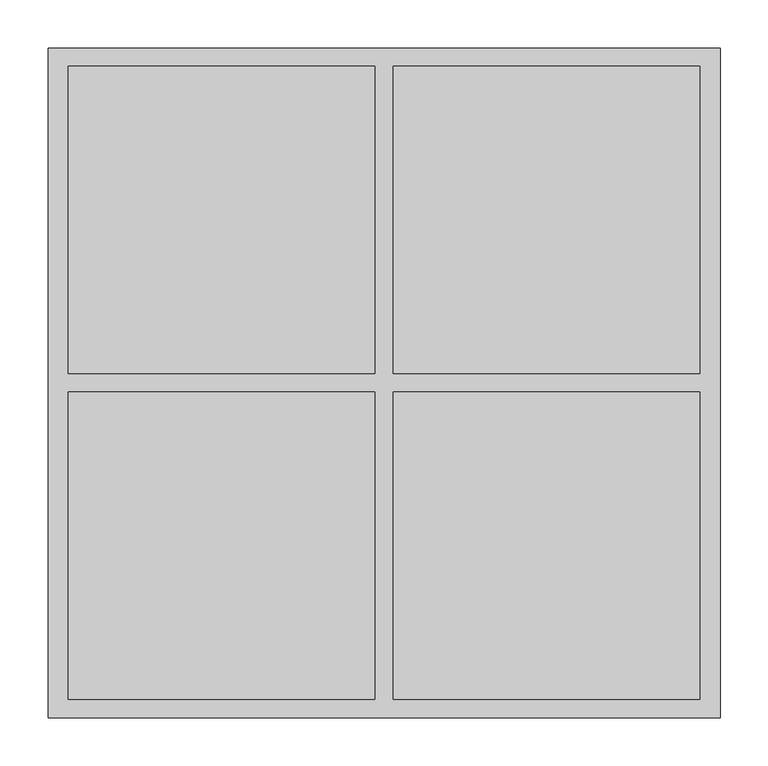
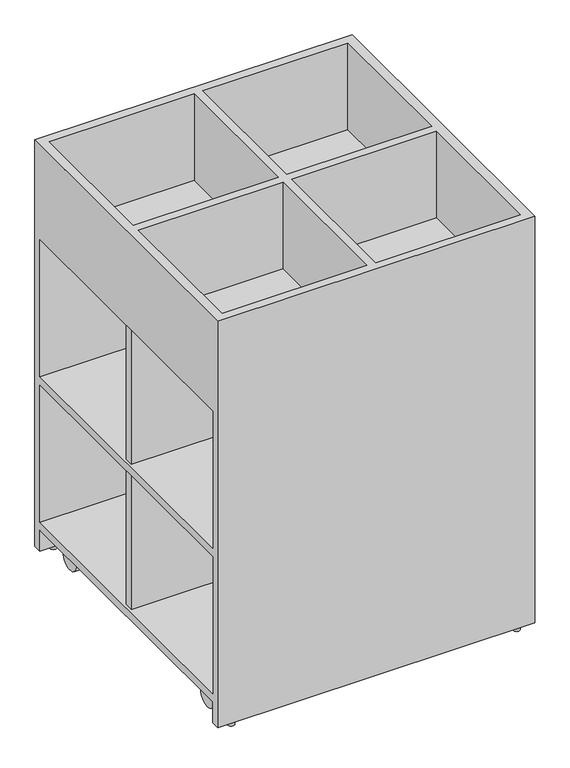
"""IFC4 building model written with IfcOpenShell, lengths in millimetres: furniture geometry, BK Library - Ella - Double Large : BK Library - Ella - Double Large."""

from ifc_helpers import new_model, si_unit, point, frame, frame_2d, origin, place, context, project, spatial, polyline, circle_curve, trimmed, segment, composite_curve, outline, extrude, faceted_brep, source, transform, mapped, element, save
from ifc_brep_helpers import plane_surface, cylinder_surface, advanced_brep


def furniture_2cdb3e4e(model_context):
    return source(origin(), model_context, "Body", "SolidModel", [
        extrude(outline(composite_curve([segment(polyline([(-315.0, 300.0), (-283.0, 300.0)]), True, "CONTINUOUS"), segment(trimmed(circle_curve(frame_2d((-283.0, 295.0)), 5.0), [point((-283.0, 300.0))], [point((-278.0, 295.0))], False, "CARTESIAN"), True, "CONTINUOUS"), segment(polyline([(-278.0, 295.0), (-278.0, 263.0)]), True, "CONTINUOUS"), segment(trimmed(circle_curve(frame_2d((-283.0, 263.0)), 5.0), [point((-278.0, 263.0))], [point((-283.0, 258.0))], False, "CARTESIAN"), True, "CONTINUOUS"), segment(polyline([(-283.0, 258.0), (-315.0, 258.0)]), True, "CONTINUOUS"), segment(trimmed(circle_curve(frame_2d((-315.0, 263.0)), 5.0), [point((-315.0, 258.0))], [point((-320.0, 263.0))], False, "CARTESIAN"), True, "CONTINUOUS"), segment(polyline([(-320.0, 263.0), (-320.0, 295.0)]), True, "CONTINUOUS"), segment(trimmed(circle_curve(frame_2d((-315.0, 295.0)), 5.0), [point((-320.0, 295.0))], [point((-315.0, 300.0))], False, "CARTESIAN"), True, "CONTINUOUS")], self_intersect=False)), frame((0.0, 0.0, 57.5), z_axis=(0.0, 0.0, 1.0), x_axis=(1.0, 0.0, 0.0)), (0.0, 0.0, 1.0), 3.0),
        extrude(outline(composite_curve([segment(trimmed(circle_curve(frame_2d((315.0, 295.0)), 5.0), [point((315.0, 300.0))], [point((320.0, 295.0))], False, "CARTESIAN"), True, "CONTINUOUS"), segment(polyline([(320.0, 295.0), (320.0, 263.0)]), True, "CONTINUOUS"), segment(trimmed(circle_curve(frame_2d((315.0, 263.0)), 5.0), [point((320.0, 263.0))], [point((315.0, 258.0))], False, "CARTESIAN"), True, "CONTINUOUS"), segment(polyline([(315.0, 258.0), (283.0, 258.0)]), True, "CONTINUOUS"), segment(trimmed(circle_curve(frame_2d((283.0, 263.0)), 5.0), [point((283.0, 258.0))], [point((278.0, 263.0))], False, "CARTESIAN"), True, "CONTINUOUS"), segment(polyline([(278.0, 263.0), (278.0, 295.0)]), True, "CONTINUOUS"), segment(trimmed(circle_curve(frame_2d((283.0, 295.0)), 5.0), [point((278.0, 295.0))], [point((283.0, 300.0))], False, "CARTESIAN"), True, "CONTINUOUS"), segment(polyline([(283.0, 300.0), (315.0, 300.0)]), True, "CONTINUOUS")], self_intersect=False)), frame((0.0, 0.0, 57.5), z_axis=(0.0, 0.0, 1.0), x_axis=(1.0, 0.0, 0.0)), (0.0, 0.0, 1.0), 3.0),
        extrude(outline(composite_curve([segment(polyline([(315.0, -300.0), (283.0, -300.0)]), True, "CONTINUOUS"), segment(trimmed(circle_curve(frame_2d((283.0, -295.0)), 5.0), [point((283.0, -300.0))], [point((278.0, -295.0))], False, "CARTESIAN"), True, "CONTINUOUS"), segment(polyline([(278.0, -295.0), (278.0, -263.0)]), True, "CONTINUOUS"), segment(trimmed(circle_curve(frame_2d((283.0, -263.0)), 5.0), [point((278.0, -263.0))], [point((283.0, -258.0))], False, "CARTESIAN"), True, "CONTINUOUS"), segment(polyline([(283.0, -258.0), (315.0, -258.0)]), True, "CONTINUOUS"), segment(trimmed(circle_curve(frame_2d((315.0, -263.0)), 5.0), [point((315.0, -258.0))], [point((320.0, -263.0))], False, "CARTESIAN"), True, "CONTINUOUS"), segment(polyline([(320.0, -263.0), (320.0, -295.0)]), True, "CONTINUOUS"), segment(trimmed(circle_curve(frame_2d((315.0, -295.0)), 5.0), [point((320.0, -295.0))], [point((315.0, -300.0))], False, "CARTESIAN"), True, "CONTINUOUS")], self_intersect=False)), frame((0.0, 0.0, 57.5), z_axis=(0.0, 0.0, 1.0), x_axis=(1.0, 0.0, 0.0)), (0.0, 0.0, 1.0), 3.0),
        extrude(outline(composite_curve([segment(trimmed(circle_curve(frame_2d((-315.0, -295.0)), 5.0), [point((-315.0, -300.0))], [point((-320.0, -295.0))], False, "CARTESIAN"), True, "CONTINUOUS"), segment(polyline([(-320.0, -295.0), (-320.0, -263.0)]), True, "CONTINUOUS"), segment(trimmed(circle_curve(frame_2d((-315.0, -263.0)), 5.0), [point((-320.0, -263.0))], [point((-315.0, -258.0))], False, "CARTESIAN"), True, "CONTINUOUS"), segment(polyline([(-315.0, -258.0), (-283.0, -258.0)]), True, "CONTINUOUS"), segment(trimmed(circle_curve(frame_2d((-283.0, -263.0)), 5.0), [point((-283.0, -258.0))], [point((-278.0, -263.0))], False, "CARTESIAN"), True, "CONTINUOUS"), segment(polyline([(-278.0, -263.0), (-278.0, -295.0)]), True, "CONTINUOUS"), segment(trimmed(circle_curve(frame_2d((-283.0, -295.0)), 5.0), [point((-278.0, -295.0))], [point((-283.0, -300.0))], False, "CARTESIAN"), True, "CONTINUOUS"), segment(polyline([(-283.0, -300.0), (-315.0, -300.0)]), True, "CONTINUOUS")], self_intersect=False)), frame((0.0, 0.0, 57.5), z_axis=(0.0, 0.0, 1.0), x_axis=(1.0, 0.0, 0.0)), (0.0, 0.0, 1.0), 3.0),
        extrude(outline(composite_curve([segment(trimmed(circle_curve(frame_2d((-315.0699503, -339.5817688)), 7.5), [point((-322.5699503, -339.5817688))], [point((-307.5699503, -339.5817688))], False, "CARTESIAN"), True, "CONTINUOUS"), segment(trimmed(circle_curve(frame_2d((-315.0699503, -339.5817688)), 7.5), [point((-307.5699503, -339.5817688))], [point((-322.5699503, -339.5817688))], False, "CARTESIAN"), True, "CONTINUOUS")], self_intersect=False)), frame((0.0, 0.0, 3.0227299), z_axis=(0.0, 0.0, 1.0), x_axis=(1.0, 0.0, 0.0)), (0.0, 0.0, 1.0), 8.5),
        extrude(outline(composite_curve([segment(trimmed(circle_curve(frame_2d((315.0699503, -339.5817688)), 7.5), [point((307.5699503, -339.5817688))], [point((322.5699503, -339.5817688))], False, "CARTESIAN"), True, "CONTINUOUS"), segment(trimmed(circle_curve(frame_2d((315.0699503, -339.5817688)), 7.5), [point((322.5699503, -339.5817688))], [point((307.5699503, -339.5817688))], False, "CARTESIAN"), True, "CONTINUOUS")], self_intersect=False)), frame((0.0, 0.0, 3.0227299), z_axis=(0.0, 0.0, 1.0), x_axis=(1.0, 0.0, 0.0)), (0.0, 0.0, 1.0), 8.5),
        extrude(outline(composite_curve([segment(trimmed(circle_curve(frame_2d((-315.0699503, 339.5817688)), 7.5), [point((-322.5699503, 339.5817688))], [point((-307.5699503, 339.5817688))], False, "CARTESIAN"), True, "CONTINUOUS"), segment(trimmed(circle_curve(frame_2d((-315.0699503, 339.5817688)), 7.5), [point((-307.5699503, 339.5817688))], [point((-322.5699503, 339.5817688))], False, "CARTESIAN"), True, "CONTINUOUS")], self_intersect=False)), frame((0.0, 0.0, 3.0227299), z_axis=(0.0, 0.0, 1.0), x_axis=(1.0, 0.0, 0.0)), (0.0, 0.0, 1.0), 8.5),
        extrude(outline(composite_curve([segment(trimmed(circle_curve(frame_2d((315.0699503, 339.5817688)), 7.5), [point((307.5699503, 339.5817688))], [point((322.5699503, 339.5817688))], False, "CARTESIAN"), True, "CONTINUOUS"), segment(trimmed(circle_curve(frame_2d((315.0699503, 339.5817688)), 7.5), [point((322.5699503, 339.5817688))], [point((307.5699503, 339.5817688))], False, "CARTESIAN"), True, "CONTINUOUS")], self_intersect=False)), frame((0.0, 0.0, 3.0227299), z_axis=(0.0, 0.0, 1.0), x_axis=(1.0, 0.0, 0.0)), (0.0, 0.0, 1.0), 8.5),
        faceted_brep([(-329.0, 330.0, 959.5227299), (-329.0, 9.5, 959.5227299), (-329.0, 9.5, 757.5227299), (-329.0, 330.0, 757.5227299), (-329.0, -9.5, 959.5227299), (-329.0, -330.0, 959.5227299), (-329.0, -330.0, 757.5227299), (-329.0, -9.5, 757.5227299), (-350.0, 349.0, 959.5227299), (-350.0, 349.0, 11.5), (-350.0, 330.0, 11.5), (-350.0, 330.0, 60.5), (-350.0, -330.0, 60.5), (-350.0, -330.0, 11.5), (-350.0, -349.0, 11.5), (-350.0, -349.0, 959.5227299), (-350.0, 330.0, 738.5227299), (-350.0, -330.0, 738.5227299), (-350.0, -330.0, 418.5), (-350.0, 330.0, 418.5), (-350.0, -330.0, 79.5), (-350.0, 330.0, 79.5), (-350.0, 330.0, 399.5), (-350.0, -330.0, 399.5), (-9.5, 330.0, 738.5227299), (-9.5, 9.5, 738.5227299), (-344.5, 9.5, 738.5227299), (-344.5, -9.5, 738.5227299), (-9.5, -9.5, 738.5227299), (-9.5, -330.0, 738.5227299), (350.0, 330.0, 738.5227299), (350.0, -330.0, 738.5227299), (9.5, -330.0, 738.5227299), (9.5, -9.5, 738.5227299), (344.5, -9.5, 738.5227299), (344.5, 9.5, 738.5227299), (9.5, 9.5, 738.5227299), (9.5, 330.0, 738.5227299), (350.0, 349.0, 959.5227299), (350.0, -349.0, 959.5227299), (-9.5, -9.5, 959.5227299), (-9.5, -330.0, 959.5227299), (9.5, -330.0, 959.5227299), (9.5, -9.5, 959.5227299), (329.0, -9.5, 959.5227299), (329.0, -330.0, 959.5227299), (9.5, 9.5, 959.5227299), (9.5, 330.0, 959.5227299), (329.0, 330.0, 959.5227299), (329.0, 9.5, 959.5227299), (-9.5, 330.0, 959.5227299), (-9.5, 9.5, 959.5227299), (350.0, 330.0, 11.5), (350.0, 349.0, 11.5), (350.0, -349.0, 11.5), (350.0, -330.0, 11.5), (350.0, -330.0, 60.5), (350.0, 330.0, 60.5), (350.0, 330.0, 79.5), (350.0, -330.0, 79.5), (350.0, -330.0, 399.5), (350.0, 330.0, 399.5), (350.0, 330.0, 418.5), (350.0, -330.0, 418.5), (-9.5, 330.0, 418.5), (-9.5, 330.0, 757.5227299), (329.0, 330.0, 757.5227299), (9.5, 330.0, 757.5227299), (9.5, 330.0, 79.5), (9.5, 330.0, 399.5), (-9.5, 330.0, 79.5), (-9.5, 330.0, 399.5), (9.5, 330.0, 418.5), (329.0, 9.5, 757.5227299), (329.0, -330.0, 757.5227299), (329.0, -9.5, 757.5227299), (-9.5, -330.0, 79.5), (-9.5, -9.5, 79.5), (-344.5, -9.5, 79.5), (-344.5, 9.5, 79.5), (-9.5, 9.5, 79.5), (9.5, 9.5, 79.5), (344.5, 9.5, 79.5), (344.5, -9.5, 79.5), (9.5, -9.5, 79.5), (9.5, -330.0, 79.5), (-9.5, -330.0, 418.5), (-9.5, -330.0, 757.5227299), (9.5, -330.0, 757.5227299), (9.5, -330.0, 399.5), (-9.5, -330.0, 399.5), (9.5, -330.0, 418.5), (-9.5, 9.5, 418.5), (-344.5, 9.5, 418.5), (-9.5, 9.5, 757.5227299), (-344.5, 9.5, 399.5), (-9.5, 9.5, 399.5), (-344.5, -9.5, 418.5), (-344.5, -9.5, 399.5), (-9.5, -9.5, 418.5), (-9.5, -9.5, 757.5227299), (-9.5, -9.5, 399.5), (9.5, -9.5, 757.5227299), (9.5, -9.5, 399.5), (9.5, -9.5, 418.5), (344.5, -9.5, 399.5), (344.5, -9.5, 418.5), (344.5, 9.5, 399.5), (344.5, 9.5, 418.5), (9.5, 9.5, 757.5227299), (9.5, 9.5, 399.5), (9.5, 9.5, 418.5)], [[[0, 1, 2, 3]], [[4, 5, 6, 7]], [[8, 9, 10, 11, 12, 13, 14, 15], [16, 17, 18, 19], [20, 21, 22, 23]], [[17, 16, 24, 25, 26, 27, 28, 29]], [[30, 31, 32, 33, 34, 35, 36, 37]], [[38, 8, 15, 39], [40, 41, 5, 4], [42, 43, 44, 45], [46, 47, 48, 49], [50, 51, 1, 0]], [[52, 53, 38, 39, 54, 55, 56, 57], [58, 59, 60, 61], [62, 63, 31, 30]], [[24, 16, 19, 64]], [[50, 0, 3, 65]], [[10, 52, 57, 11]], [[66, 48, 47, 67]], [[68, 58, 61, 69]], [[21, 70, 71, 22]], [[72, 62, 30, 37]], [[53, 52, 10, 9]], [[38, 53, 9, 8]], [[48, 66, 73, 49]], [[74, 45, 44, 75]], [[21, 20, 76, 77, 78, 79, 80, 70]], [[59, 58, 68, 81, 82, 83, 84, 85]], [[57, 56, 12, 11]], [[17, 29, 86, 18]], [[5, 41, 87, 6]], [[45, 74, 88, 42]], [[59, 85, 89, 60]], [[76, 20, 23, 90]], [[55, 13, 12, 56]], [[63, 91, 32, 31]], [[55, 54, 14, 13]], [[54, 39, 15, 14]], [[26, 25, 92, 93]], [[1, 51, 94, 2]], [[80, 79, 95, 96]], [[27, 26, 93, 97]], [[79, 78, 98, 95]], [[28, 27, 97, 99]], [[40, 4, 7, 100]], [[78, 77, 101, 98]], [[41, 40, 100, 87]], [[77, 76, 90, 101]], [[99, 86, 29, 28]], [[43, 42, 88, 102]], [[85, 84, 103, 89]], [[91, 104, 33, 32]], [[44, 43, 102, 75]], [[84, 83, 105, 103]], [[104, 106, 34, 33]], [[83, 82, 107, 105]], [[106, 108, 35, 34]], [[46, 49, 73, 109]], [[82, 81, 110, 107]], [[108, 111, 36, 35]], [[47, 46, 109, 67]], [[81, 68, 69, 110]], [[111, 72, 37, 36]], [[51, 50, 65, 94]], [[70, 80, 96, 71]], [[64, 92, 25, 24]], [[19, 18, 86, 99, 97, 93, 92, 64]], [[63, 62, 72, 111, 108, 106, 104, 91]], [[23, 22, 71, 96, 95, 98, 101, 90]], [[61, 60, 89, 103, 105, 107, 110, 69]], [[3, 2, 94, 65]], [[7, 6, 87, 100]], [[66, 67, 109, 73]], [[74, 75, 102, 88]]]),
        advanced_brep(
        [(-288.2, 259.8173932, 49.2209016), (-309.8, 259.8173932, 49.2209016), (-309.8, 237.8179223, 24.4016183), (-309.8, 239.7779412, 14.6980483), (-288.2, 239.7779412, 14.6980483), (-288.2, 237.8179223, 24.4016183), (-288.2, 259.8173932, 49.6980483), (-309.8, 259.8173932, 49.6980483), (-288.2, 280.4771182, 49.6980483), (-309.8, 280.4771182, 49.6980483), (-309.8, 280.4771182, 14.6980483), (-288.2, 280.4771182, 14.6980483)],
        [
            (0, 1),
            (1, 2, circle_curve(frame((-309.8, 262.8179223, 24.4016183), z_axis=(1.0, 0.0, 0.0), x_axis=(0.0, 1.0, 0.0)), 25.0)),
            (2, 3, circle_curve(frame((-309.8, 262.8179223, 24.4016183), z_axis=(1.0, 0.0, 0.0), x_axis=(0.0, 1.0, 0.0)), 25.0)),
            (3, 4),
            (4, 5, circle_curve(frame((-288.2, 262.8179223, 24.4016183), z_axis=(-1.0, 0.0, 0.0), x_axis=(0.0, 1.0, 0.0)), 25.0)),
            (5, 0, circle_curve(frame((-288.2, 262.8179223, 24.4016183), z_axis=(-1.0, 0.0, 0.0), x_axis=(0.0, 1.0, 0.0)), 25.0)),
            (0, 6),
            (6, 7),
            (7, 1),
            (8, 9, circle_curve(frame((-299.0, 278.3890569, 49.6980483), z_axis=(0.0, 0.0, 1.0), x_axis=(1.0, 0.0, 0.0)), 11.0)),
            (9, 7),
            (6, 8),
            (10, 11, circle_curve(frame((-299.0, 278.3890569, 14.6980483), z_axis=(0.0, 0.0, -1.0), x_axis=(1.0, 0.0, 0.0)), 11.0)),
            (11, 4),
            (3, 10),
            (9, 10),
            (11, 8),
        ],
        [
            cylinder_surface(frame((-324.3021081, 262.8179223, 24.4016183), z_axis=(-1.0, 0.0, 0.0), x_axis=(0.0, 1.0, 0.0)), 25.0),
            plane_surface(frame((-256.1806068, 259.8173932, 49.2209016), z_axis=(0.0, -1.0, 0.0), x_axis=(-1.0, 0.0, 0.0))),
            plane_surface(frame((-309.8, 237.8179223, 49.6980483), z_axis=(0.0, 0.0, 1.0), x_axis=(0.0, -1.0, 0.0))),
            plane_surface(frame((-309.8, 237.8179223, 14.6980483), z_axis=(0.0, 0.0, -1.0), x_axis=(0.0, 1.0, 0.0))),
            plane_surface(frame((-309.8, 280.4771182, 49.6980483), z_axis=(-1.0, 0.0, 0.0), x_axis=(0.0, 0.0, -1.0))),
            plane_surface(frame((-288.2, 237.8179223, 49.6980483), z_axis=(1.0, 0.0, 0.0), x_axis=(0.0, 0.0, -1.0))),
            cylinder_surface(frame((-299.0, 278.3890569, 14.6980483), z_axis=(0.0, 0.0, 1.0), x_axis=(1.0, 0.0, 0.0)), 11.0),
        ],
        [
            (0, [[1, 2, 3, 4, 5, 6]]),
            (1, [[-1, 7, 8, 9]]),
            (2, [[10, 11, -8, 12]]),
            (3, [[13, 14, -4, 15]]),
            (4, [[16, -15, -3, -2, -9, -11]]),
            (5, [[17, -12, -7, -6, -5, -14]]),
            (6, [[-10, -17, -13, -16]]),
        ],
    ),
        advanced_brep(
        [(-309.8, 237.8179223, 24.4016183), (-309.8, 239.7779412, 14.6980483), (-309.8, 287.8179223, 24.4016183), (-309.8, 259.8173932, 49.2209016), (-322.8, 237.8179223, 24.4016183), (-322.8, 259.8173932, 49.2209016), (-322.8, 287.8179223, 24.4016183), (-322.8, 239.7779412, 14.6980483)],
        [
            (0, 1, circle_curve(frame((-309.8, 262.8179223, 24.4016183), z_axis=(1.0, 0.0, 0.0), x_axis=(0.0, 1.0, 0.0)), 25.0)),
            (1, 2, circle_curve(frame((-309.8, 262.8179223, 24.4016183), z_axis=(1.0, 0.0, 0.0), x_axis=(0.0, 1.0, 0.0)), 25.0)),
            (2, 3, circle_curve(frame((-309.8, 262.8179223, 24.4016183), z_axis=(1.0, 0.0, 0.0), x_axis=(0.0, 1.0, 0.0)), 25.0)),
            (3, 0, circle_curve(frame((-309.8, 262.8179223, 24.4016183), z_axis=(1.0, 0.0, 0.0), x_axis=(0.0, 1.0, 0.0)), 25.0)),
            (4, 5, circle_curve(frame((-322.8, 262.8179223, 24.4016183), z_axis=(-1.0, 0.0, 0.0), x_axis=(0.0, 1.0, 0.0)), 25.0)),
            (5, 6, circle_curve(frame((-322.8, 262.8179223, 24.4016183), z_axis=(-1.0, 0.0, 0.0), x_axis=(0.0, 1.0, 0.0)), 25.0)),
            (6, 7, circle_curve(frame((-322.8, 262.8179223, 24.4016183), z_axis=(-1.0, 0.0, 0.0), x_axis=(0.0, 1.0, 0.0)), 25.0)),
            (7, 4, circle_curve(frame((-322.8, 262.8179223, 24.4016183), z_axis=(-1.0, 0.0, 0.0), x_axis=(0.0, 1.0, 0.0)), 25.0)),
            (0, 4),
            (6, 2),
        ],
        [
            plane_surface(frame((-309.8, 287.8179223, 24.4016183), z_axis=(1.0, 0.0, 0.0), x_axis=(0.0, 0.0, 1.0))),
            plane_surface(frame((-322.8, 287.8179223, 24.4016183), z_axis=(-1.0, 0.0, 0.0), x_axis=(0.0, 0.0, -1.0))),
            cylinder_surface(frame((-322.8, 262.8179223, 24.4016183), z_axis=(1.0, 0.0, 0.0), x_axis=(0.0, 1.0, 0.0)), 25.0),
        ],
        [
            (0, [[1, 2, 3, 4]]),
            (1, [[5, 6, 7, 8]]),
            (2, [[9, -8, -7, 10, -2, -1]]),
            (2, [[-9, -4, -3, -10, -6, -5]]),
        ],
    ),
        advanced_brep(
        [(-275.2, 237.8179223, 24.4016183), (-275.2, 239.7779412, 14.6980483), (-275.2, 287.8179223, 24.4016183), (-275.2, 259.8173932, 49.2209016), (-288.2, 237.8179223, 24.4016183), (-288.2, 259.8173932, 49.2209016), (-288.2, 287.8179223, 24.4016183), (-288.2, 239.7779412, 14.6980483)],
        [
            (0, 1, circle_curve(frame((-275.2, 262.8179223, 24.4016183), z_axis=(1.0, 0.0, 0.0), x_axis=(0.0, 1.0, 0.0)), 25.0)),
            (1, 2, circle_curve(frame((-275.2, 262.8179223, 24.4016183), z_axis=(1.0, 0.0, 0.0), x_axis=(0.0, 1.0, 0.0)), 25.0)),
            (2, 3, circle_curve(frame((-275.2, 262.8179223, 24.4016183), z_axis=(1.0, 0.0, 0.0), x_axis=(0.0, 1.0, 0.0)), 25.0)),
            (3, 0, circle_curve(frame((-275.2, 262.8179223, 24.4016183), z_axis=(1.0, 0.0, 0.0), x_axis=(0.0, 1.0, 0.0)), 25.0)),
            (4, 5, circle_curve(frame((-288.2, 262.8179223, 24.4016183), z_axis=(-1.0, 0.0, 0.0), x_axis=(0.0, 1.0, 0.0)), 25.0)),
            (5, 6, circle_curve(frame((-288.2, 262.8179223, 24.4016183), z_axis=(-1.0, 0.0, 0.0), x_axis=(0.0, 1.0, 0.0)), 25.0)),
            (6, 7, circle_curve(frame((-288.2, 262.8179223, 24.4016183), z_axis=(-1.0, 0.0, 0.0), x_axis=(0.0, 1.0, 0.0)), 25.0)),
            (7, 4, circle_curve(frame((-288.2, 262.8179223, 24.4016183), z_axis=(-1.0, 0.0, 0.0), x_axis=(0.0, 1.0, 0.0)), 25.0)),
            (0, 4),
            (6, 2),
        ],
        [
            plane_surface(frame((-275.2, 287.8179223, 24.4016183), z_axis=(1.0, 0.0, 0.0), x_axis=(0.0, 0.0, 1.0))),
            plane_surface(frame((-288.2, 287.8179223, 24.4016183), z_axis=(-1.0, 0.0, 0.0), x_axis=(0.0, 0.0, -1.0))),
            cylinder_surface(frame((-288.2, 262.8179223, 24.4016183), z_axis=(1.0, 0.0, 0.0), x_axis=(0.0, 1.0, 0.0)), 25.0),
        ],
        [
            (0, [[1, 2, 3, 4]]),
            (1, [[5, 6, 7, 8]]),
            (2, [[9, -8, -7, 10, -2, -1]]),
            (2, [[-9, -4, -3, -10, -6, -5]]),
        ],
    ),
        extrude(outline(composite_curve([segment(trimmed(circle_curve(frame_2d((-299.0, 278.3890569)), 6.9282032), [point((-305.9282032, 278.3890569))], [point((-292.0717968, 278.3890569))], False, "CARTESIAN"), True, "CONTINUOUS"), segment(trimmed(circle_curve(frame_2d((-299.0, 278.3890569)), 6.9282032), [point((-292.0717968, 278.3890569))], [point((-305.9282032, 278.3890569))], False, "CARTESIAN"), True, "CONTINUOUS")], self_intersect=False)), frame((0.0, 0.0, 49.639875), z_axis=(0.0, 0.0, 1.0), x_axis=(1.0, 0.0, 0.0)), (0.0, 0.0, 1.0), 7.860125),
        advanced_brep(
        [(309.8, 259.8173932, 49.2209016), (288.2, 259.8173932, 49.2209016), (288.2, 237.8179223, 24.4016183), (288.2, 239.7779412, 14.6980483), (309.8, 239.7779412, 14.6980483), (309.8, 237.8179223, 24.4016183), (309.8, 259.8173932, 49.6980483), (288.2, 259.8173932, 49.6980483), (309.8, 280.4771182, 49.6980483), (288.2, 280.4771182, 49.6980483), (288.2, 280.4771182, 14.6980483), (309.8, 280.4771182, 14.6980483)],
        [
            (0, 1),
            (1, 2, circle_curve(frame((288.2, 262.8179223, 24.4016183), z_axis=(1.0, 0.0, 0.0), x_axis=(0.0, 1.0, 0.0)), 25.0)),
            (2, 3, circle_curve(frame((288.2, 262.8179223, 24.4016183), z_axis=(1.0, 0.0, 0.0), x_axis=(0.0, 1.0, 0.0)), 25.0)),
            (3, 4),
            (4, 5, circle_curve(frame((309.8, 262.8179223, 24.4016183), z_axis=(-1.0, 0.0, 0.0), x_axis=(0.0, 1.0, 0.0)), 25.0)),
            (5, 0, circle_curve(frame((309.8, 262.8179223, 24.4016183), z_axis=(-1.0, 0.0, 0.0), x_axis=(0.0, 1.0, 0.0)), 25.0)),
            (0, 6),
            (6, 7),
            (7, 1),
            (8, 9, circle_curve(frame((299.0, 278.3890569, 49.6980483), z_axis=(0.0, 0.0, 1.0), x_axis=(-1.0, 0.0, 0.0)), 11.0)),
            (9, 7),
            (6, 8),
            (10, 11, circle_curve(frame((299.0, 278.3890569, 14.6980483), z_axis=(0.0, 0.0, -1.0), x_axis=(-1.0, 0.0, 0.0)), 11.0)),
            (11, 4),
            (3, 10),
            (11, 8),
            (9, 10),
        ],
        [
            cylinder_surface(frame((324.3021081, 262.8179223, 24.4016183), z_axis=(1.0, 0.0, 0.0), x_axis=(0.0, 1.0, 0.0)), 25.0),
            plane_surface(frame((256.1806068, 259.8173932, 52.6059684), z_axis=(0.0, -1.0, 0.0), x_axis=(1.0, 0.0, 0.0))),
            plane_surface(frame((288.0, 278.3890569, 49.6980483), z_axis=(0.0, 0.0, 1.0), x_axis=(0.0, -1.0, 0.0))),
            plane_surface(frame((288.0, 278.3890569, 14.6980483), z_axis=(0.0, 0.0, -1.0), x_axis=(0.0, 1.0, 0.0))),
            plane_surface(frame((309.8, 237.8179223, 49.6980483), z_axis=(1.0, 0.0, 0.0), x_axis=(0.0, 0.0, -1.0))),
            plane_surface(frame((288.2, 280.4771182, 49.6980483), z_axis=(-1.0, 0.0, 0.0), x_axis=(0.0, 0.0, -1.0))),
            cylinder_surface(frame((299.0, 278.3890569, 14.6980483), z_axis=(0.0, 0.0, 1.0), x_axis=(-1.0, 0.0, 0.0)), 11.0),
        ],
        [
            (0, [[1, 2, 3, 4, 5, 6]]),
            (1, [[-1, 7, 8, 9]]),
            (2, [[10, 11, -8, 12]]),
            (3, [[13, 14, -4, 15]]),
            (4, [[16, -12, -7, -6, -5, -14]]),
            (5, [[17, -15, -3, -2, -9, -11]]),
            (6, [[-10, -16, -13, -17]]),
        ],
    ),
        advanced_brep(
        [(309.8, 237.8179223, 24.4016183), (309.8, 259.8173932, 49.2209016), (309.8, 287.8179223, 24.4016183), (309.8, 239.7779412, 14.6980483), (322.8, 237.8179223, 24.4016183), (322.8, 239.7779412, 14.6980483), (322.8, 287.8179223, 24.4016183), (322.8, 259.8173932, 49.2209016)],
        [
            (0, 1, circle_curve(frame((309.8, 262.8179223, 24.4016183), z_axis=(-1.0, 0.0, 0.0), x_axis=(0.0, 1.0, 0.0)), 25.0)),
            (1, 2, circle_curve(frame((309.8, 262.8179223, 24.4016183), z_axis=(-1.0, 0.0, 0.0), x_axis=(0.0, 1.0, 0.0)), 25.0)),
            (2, 3, circle_curve(frame((309.8, 262.8179223, 24.4016183), z_axis=(-1.0, 0.0, 0.0), x_axis=(0.0, 1.0, 0.0)), 25.0)),
            (3, 0, circle_curve(frame((309.8, 262.8179223, 24.4016183), z_axis=(-1.0, 0.0, 0.0), x_axis=(0.0, 1.0, 0.0)), 25.0)),
            (4, 5, circle_curve(frame((322.8, 262.8179223, 24.4016183), z_axis=(1.0, 0.0, 0.0), x_axis=(0.0, 1.0, 0.0)), 25.0)),
            (5, 6, circle_curve(frame((322.8, 262.8179223, 24.4016183), z_axis=(1.0, 0.0, 0.0), x_axis=(0.0, 1.0, 0.0)), 25.0)),
            (6, 7, circle_curve(frame((322.8, 262.8179223, 24.4016183), z_axis=(1.0, 0.0, 0.0), x_axis=(0.0, 1.0, 0.0)), 25.0)),
            (7, 4, circle_curve(frame((322.8, 262.8179223, 24.4016183), z_axis=(1.0, 0.0, 0.0), x_axis=(0.0, 1.0, 0.0)), 25.0)),
            (2, 6),
            (4, 0),
        ],
        [
            plane_surface(frame((309.8, 287.8179223, 24.4016183), z_axis=(-1.0, 0.0, 0.0), x_axis=(0.0, 0.0, -1.0))),
            plane_surface(frame((322.8, 287.8179223, 24.4016183), z_axis=(1.0, 0.0, 0.0), x_axis=(0.0, 0.0, 1.0))),
            cylinder_surface(frame((322.8, 262.8179223, 24.4016183), z_axis=(-1.0, 0.0, 0.0), x_axis=(0.0, 1.0, 0.0)), 25.0),
        ],
        [
            (0, [[1, 2, 3, 4]]),
            (1, [[5, 6, 7, 8]]),
            (2, [[9, -6, -5, 10, -4, -3]]),
            (2, [[-9, -2, -1, -10, -8, -7]]),
        ],
    ),
        advanced_brep(
        [(275.2, 237.8179223, 24.4016183), (275.2, 259.8173932, 49.2209016), (275.2, 287.8179223, 24.4016183), (275.2, 239.7779412, 14.6980483), (288.2, 237.8179223, 24.4016183), (288.2, 239.7779412, 14.6980483), (288.2, 287.8179223, 24.4016183), (288.2, 259.8173932, 49.2209016)],
        [
            (0, 1, circle_curve(frame((275.2, 262.8179223, 24.4016183), z_axis=(-1.0, 0.0, 0.0), x_axis=(0.0, 1.0, 0.0)), 25.0)),
            (1, 2, circle_curve(frame((275.2, 262.8179223, 24.4016183), z_axis=(-1.0, 0.0, 0.0), x_axis=(0.0, 1.0, 0.0)), 25.0)),
            (2, 3, circle_curve(frame((275.2, 262.8179223, 24.4016183), z_axis=(-1.0, 0.0, 0.0), x_axis=(0.0, 1.0, 0.0)), 25.0)),
            (3, 0, circle_curve(frame((275.2, 262.8179223, 24.4016183), z_axis=(-1.0, 0.0, 0.0), x_axis=(0.0, 1.0, 0.0)), 25.0)),
            (4, 5, circle_curve(frame((288.2, 262.8179223, 24.4016183), z_axis=(1.0, 0.0, 0.0), x_axis=(0.0, 1.0, 0.0)), 25.0)),
            (5, 6, circle_curve(frame((288.2, 262.8179223, 24.4016183), z_axis=(1.0, 0.0, 0.0), x_axis=(0.0, 1.0, 0.0)), 25.0)),
            (6, 7, circle_curve(frame((288.2, 262.8179223, 24.4016183), z_axis=(1.0, 0.0, 0.0), x_axis=(0.0, 1.0, 0.0)), 25.0)),
            (7, 4, circle_curve(frame((288.2, 262.8179223, 24.4016183), z_axis=(1.0, 0.0, 0.0), x_axis=(0.0, 1.0, 0.0)), 25.0)),
            (2, 6),
            (4, 0),
        ],
        [
            plane_surface(frame((275.2, 287.8179223, 24.4016183), z_axis=(-1.0, 0.0, 0.0), x_axis=(0.0, 0.0, -1.0))),
            plane_surface(frame((288.2, 287.8179223, 24.4016183), z_axis=(1.0, 0.0, 0.0), x_axis=(0.0, 0.0, 1.0))),
            cylinder_surface(frame((288.2, 262.8179223, 24.4016183), z_axis=(-1.0, 0.0, 0.0), x_axis=(0.0, 1.0, 0.0)), 25.0),
        ],
        [
            (0, [[1, 2, 3, 4]]),
            (1, [[5, 6, 7, 8]]),
            (2, [[9, -6, -5, 10, -4, -3]]),
            (2, [[-9, -2, -1, -10, -8, -7]]),
        ],
    ),
        extrude(outline(composite_curve([segment(trimmed(circle_curve(frame_2d((299.0, 278.3890569)), 6.9282032), [point((305.9282032, 278.3890569))], [point((292.0717968, 278.3890569))], False, "CARTESIAN"), True, "CONTINUOUS"), segment(trimmed(circle_curve(frame_2d((299.0, 278.3890569)), 6.9282032), [point((292.0717968, 278.3890569))], [point((305.9282032, 278.3890569))], False, "CARTESIAN"), True, "CONTINUOUS")], self_intersect=False)), frame((0.0, 0.0, 49.639875), z_axis=(0.0, 0.0, 1.0), x_axis=(1.0, 0.0, 0.0)), (0.0, 0.0, 1.0), 7.860125),
        advanced_brep(
        [(288.2, -259.8173932, 49.2209016), (309.8, -259.8173932, 49.2209016), (309.8, -237.8179223, 24.4016183), (309.8, -239.7779412, 14.6980483), (288.2, -239.7779412, 14.6980483), (288.2, -237.8179223, 24.4016183), (288.2, -259.8173932, 49.6980483), (309.8, -259.8173932, 49.6980483), (288.2, -280.4771182, 49.6980483), (309.8, -280.4771182, 49.6980483), (309.8, -280.4771182, 14.6980483), (288.2, -280.4771182, 14.6980483)],
        [
            (0, 1),
            (1, 2, circle_curve(frame((309.8, -262.8179223, 24.4016183), z_axis=(-1.0, 0.0, 0.0), x_axis=(0.0, -1.0, 0.0)), 25.0)),
            (2, 3, circle_curve(frame((309.8, -262.8179223, 24.4016183), z_axis=(-1.0, 0.0, 0.0), x_axis=(0.0, -1.0, 0.0)), 25.0)),
            (3, 4),
            (4, 5, circle_curve(frame((288.2, -262.8179223, 24.4016183), z_axis=(1.0, 0.0, 0.0), x_axis=(0.0, -1.0, 0.0)), 25.0)),
            (5, 0, circle_curve(frame((288.2, -262.8179223, 24.4016183), z_axis=(1.0, 0.0, 0.0), x_axis=(0.0, -1.0, 0.0)), 25.0)),
            (0, 6),
            (6, 7),
            (7, 1),
            (8, 9, circle_curve(frame((299.0, -278.3890569, 49.6980483), z_axis=(0.0, 0.0, 1.0), x_axis=(-1.0, 0.0, 0.0)), 11.0)),
            (9, 7),
            (6, 8),
            (10, 11, circle_curve(frame((299.0, -278.3890569, 14.6980483), z_axis=(0.0, 0.0, -1.0), x_axis=(-1.0, 0.0, 0.0)), 11.0)),
            (11, 4),
            (3, 10),
            (9, 10),
            (11, 8),
        ],
        [
            cylinder_surface(frame((324.3021081, -262.8179223, 24.4016183), z_axis=(1.0, 0.0, 0.0), x_axis=(0.0, -1.0, 0.0)), 25.0),
            plane_surface(frame((256.1806068, -259.8173932, 49.2209016), z_axis=(0.0, 1.0, 0.0), x_axis=(1.0, 0.0, 0.0))),
            plane_surface(frame((309.8, -237.8179223, 49.6980483), z_axis=(0.0, 0.0, 1.0), x_axis=(0.0, 1.0, 0.0))),
            plane_surface(frame((309.8, -237.8179223, 14.6980483), z_axis=(0.0, 0.0, -1.0), x_axis=(0.0, -1.0, 0.0))),
            plane_surface(frame((309.8, -280.4771182, 49.6980483), z_axis=(1.0, 0.0, 0.0), x_axis=(0.0, 0.0, -1.0))),
            plane_surface(frame((288.2, -237.8179223, 49.6980483), z_axis=(-1.0, 0.0, 0.0), x_axis=(0.0, 0.0, -1.0))),
            cylinder_surface(frame((299.0, -278.3890569, 14.6980483), z_axis=(0.0, 0.0, 1.0), x_axis=(-1.0, 0.0, 0.0)), 11.0),
        ],
        [
            (0, [[1, 2, 3, 4, 5, 6]]),
            (1, [[-1, 7, 8, 9]]),
            (2, [[10, 11, -8, 12]]),
            (3, [[13, 14, -4, 15]]),
            (4, [[16, -15, -3, -2, -9, -11]]),
            (5, [[17, -12, -7, -6, -5, -14]]),
            (6, [[-10, -17, -13, -16]]),
        ],
    ),
        advanced_brep(
        [(309.8, -237.8179223, 24.4016183), (309.8, -239.7779412, 14.6980483), (309.8, -287.8179223, 24.4016183), (309.8, -259.8173932, 49.2209016), (322.8, -237.8179223, 24.4016183), (322.8, -259.8173932, 49.2209016), (322.8, -287.8179223, 24.4016183), (322.8, -239.7779412, 14.6980483)],
        [
            (0, 1, circle_curve(frame((309.8, -262.8179223, 24.4016183), z_axis=(-1.0, 0.0, 0.0), x_axis=(0.0, -1.0, 0.0)), 25.0)),
            (1, 2, circle_curve(frame((309.8, -262.8179223, 24.4016183), z_axis=(-1.0, 0.0, 0.0), x_axis=(0.0, -1.0, 0.0)), 25.0)),
            (2, 3, circle_curve(frame((309.8, -262.8179223, 24.4016183), z_axis=(-1.0, 0.0, 0.0), x_axis=(0.0, -1.0, 0.0)), 25.0)),
            (3, 0, circle_curve(frame((309.8, -262.8179223, 24.4016183), z_axis=(-1.0, 0.0, 0.0), x_axis=(0.0, -1.0, 0.0)), 25.0)),
            (4, 5, circle_curve(frame((322.8, -262.8179223, 24.4016183), z_axis=(1.0, 0.0, 0.0), x_axis=(0.0, -1.0, 0.0)), 25.0)),
            (5, 6, circle_curve(frame((322.8, -262.8179223, 24.4016183), z_axis=(1.0, 0.0, 0.0), x_axis=(0.0, -1.0, 0.0)), 25.0)),
            (6, 7, circle_curve(frame((322.8, -262.8179223, 24.4016183), z_axis=(1.0, 0.0, 0.0), x_axis=(0.0, -1.0, 0.0)), 25.0)),
            (7, 4, circle_curve(frame((322.8, -262.8179223, 24.4016183), z_axis=(1.0, 0.0, 0.0), x_axis=(0.0, -1.0, 0.0)), 25.0)),
            (0, 4),
            (6, 2),
        ],
        [
            plane_surface(frame((309.8, -287.8179223, 24.4016183), z_axis=(-1.0, 0.0, 0.0), x_axis=(0.0, 0.0, 1.0))),
            plane_surface(frame((322.8, -287.8179223, 24.4016183), z_axis=(1.0, 0.0, 0.0), x_axis=(0.0, 0.0, -1.0))),
            cylinder_surface(frame((322.8, -262.8179223, 24.4016183), z_axis=(-1.0, 0.0, 0.0), x_axis=(0.0, -1.0, 0.0)), 25.0),
        ],
        [
            (0, [[1, 2, 3, 4]]),
            (1, [[5, 6, 7, 8]]),
            (2, [[9, -8, -7, 10, -2, -1]]),
            (2, [[-9, -4, -3, -10, -6, -5]]),
        ],
    ),
        advanced_brep(
        [(275.2, -237.8179223, 24.4016183), (275.2, -239.7779412, 14.6980483), (275.2, -287.8179223, 24.4016183), (275.2, -259.8173932, 49.2209016), (288.2, -237.8179223, 24.4016183), (288.2, -259.8173932, 49.2209016), (288.2, -287.8179223, 24.4016183), (288.2, -239.7779412, 14.6980483)],
        [
            (0, 1, circle_curve(frame((275.2, -262.8179223, 24.4016183), z_axis=(-1.0, 0.0, 0.0), x_axis=(0.0, -1.0, 0.0)), 25.0)),
            (1, 2, circle_curve(frame((275.2, -262.8179223, 24.4016183), z_axis=(-1.0, 0.0, 0.0), x_axis=(0.0, -1.0, 0.0)), 25.0)),
            (2, 3, circle_curve(frame((275.2, -262.8179223, 24.4016183), z_axis=(-1.0, 0.0, 0.0), x_axis=(0.0, -1.0, 0.0)), 25.0)),
            (3, 0, circle_curve(frame((275.2, -262.8179223, 24.4016183), z_axis=(-1.0, 0.0, 0.0), x_axis=(0.0, -1.0, 0.0)), 25.0)),
            (4, 5, circle_curve(frame((288.2, -262.8179223, 24.4016183), z_axis=(1.0, 0.0, 0.0), x_axis=(0.0, -1.0, 0.0)), 25.0)),
            (5, 6, circle_curve(frame((288.2, -262.8179223, 24.4016183), z_axis=(1.0, 0.0, 0.0), x_axis=(0.0, -1.0, 0.0)), 25.0)),
            (6, 7, circle_curve(frame((288.2, -262.8179223, 24.4016183), z_axis=(1.0, 0.0, 0.0), x_axis=(0.0, -1.0, 0.0)), 25.0)),
            (7, 4, circle_curve(frame((288.2, -262.8179223, 24.4016183), z_axis=(1.0, 0.0, 0.0), x_axis=(0.0, -1.0, 0.0)), 25.0)),
            (0, 4),
            (6, 2),
        ],
        [
            plane_surface(frame((275.2, -287.8179223, 24.4016183), z_axis=(-1.0, 0.0, 0.0), x_axis=(0.0, 0.0, 1.0))),
            plane_surface(frame((288.2, -287.8179223, 24.4016183), z_axis=(1.0, 0.0, 0.0), x_axis=(0.0, 0.0, -1.0))),
            cylinder_surface(frame((288.2, -262.8179223, 24.4016183), z_axis=(-1.0, 0.0, 0.0), x_axis=(0.0, -1.0, 0.0)), 25.0),
        ],
        [
            (0, [[1, 2, 3, 4]]),
            (1, [[5, 6, 7, 8]]),
            (2, [[9, -8, -7, 10, -2, -1]]),
            (2, [[-9, -4, -3, -10, -6, -5]]),
        ],
    ),
        extrude(outline(composite_curve([segment(trimmed(circle_curve(frame_2d((299.0, -278.3890569)), 6.9282032), [point((305.9282032, -278.3890569))], [point((292.0717968, -278.3890569))], False, "CARTESIAN"), True, "CONTINUOUS"), segment(trimmed(circle_curve(frame_2d((299.0, -278.3890569)), 6.9282032), [point((292.0717968, -278.3890569))], [point((305.9282032, -278.3890569))], False, "CARTESIAN"), True, "CONTINUOUS")], self_intersect=False)), frame((0.0, 0.0, 49.639875), z_axis=(0.0, 0.0, 1.0), x_axis=(1.0, 0.0, 0.0)), (0.0, 0.0, 1.0), 7.860125),
        advanced_brep(
        [(-309.8, -259.8173932, 49.2209016), (-288.2, -259.8173932, 49.2209016), (-288.2, -237.8179223, 24.4016183), (-288.2, -239.7779412, 14.6980483), (-309.8, -239.7779412, 14.6980483), (-309.8, -237.8179223, 24.4016183), (-309.8, -259.8173932, 49.6980483), (-288.2, -259.8173932, 49.6980483), (-309.8, -280.4771182, 49.6980483), (-288.2, -280.4771182, 49.6980483), (-288.2, -280.4771182, 14.6980483), (-309.8, -280.4771182, 14.6980483)],
        [
            (0, 1),
            (1, 2, circle_curve(frame((-288.2, -262.8179223, 24.4016183), z_axis=(-1.0, 0.0, 0.0), x_axis=(0.0, -1.0, 0.0)), 25.0)),
            (2, 3, circle_curve(frame((-288.2, -262.8179223, 24.4016183), z_axis=(-1.0, 0.0, 0.0), x_axis=(0.0, -1.0, 0.0)), 25.0)),
            (3, 4),
            (4, 5, circle_curve(frame((-309.8, -262.8179223, 24.4016183), z_axis=(1.0, 0.0, 0.0), x_axis=(0.0, -1.0, 0.0)), 25.0)),
            (5, 0, circle_curve(frame((-309.8, -262.8179223, 24.4016183), z_axis=(1.0, 0.0, 0.0), x_axis=(0.0, -1.0, 0.0)), 25.0)),
            (0, 6),
            (6, 7),
            (7, 1),
            (8, 9, circle_curve(frame((-299.0, -278.3890569, 49.6980483), z_axis=(0.0, 0.0, 1.0), x_axis=(1.0, 0.0, 0.0)), 11.0)),
            (9, 7),
            (6, 8),
            (10, 11, circle_curve(frame((-299.0, -278.3890569, 14.6980483), z_axis=(0.0, 0.0, -1.0), x_axis=(1.0, 0.0, 0.0)), 11.0)),
            (11, 4),
            (3, 10),
            (11, 8),
            (9, 10),
        ],
        [
            cylinder_surface(frame((-324.3021081, -262.8179223, 24.4016183), z_axis=(-1.0, 0.0, 0.0), x_axis=(0.0, -1.0, 0.0)), 25.0),
            plane_surface(frame((-256.1806068, -259.8173932, 52.6059684), z_axis=(0.0, 1.0, 0.0), x_axis=(-1.0, 0.0, 0.0))),
            plane_surface(frame((-288.0, -278.3890569, 49.6980483), z_axis=(0.0, 0.0, 1.0), x_axis=(0.0, 1.0, 0.0))),
            plane_surface(frame((-288.0, -278.3890569, 14.6980483), z_axis=(0.0, 0.0, -1.0), x_axis=(0.0, -1.0, 0.0))),
            plane_surface(frame((-309.8, -237.8179223, 49.6980483), z_axis=(-1.0, 0.0, 0.0), x_axis=(0.0, 0.0, -1.0))),
            plane_surface(frame((-288.2, -280.4771182, 49.6980483), z_axis=(1.0, 0.0, 0.0), x_axis=(0.0, 0.0, -1.0))),
            cylinder_surface(frame((-299.0, -278.3890569, 14.6980483), z_axis=(0.0, 0.0, 1.0), x_axis=(1.0, 0.0, 0.0)), 11.0),
        ],
        [
            (0, [[1, 2, 3, 4, 5, 6]]),
            (1, [[-1, 7, 8, 9]]),
            (2, [[10, 11, -8, 12]]),
            (3, [[13, 14, -4, 15]]),
            (4, [[16, -12, -7, -6, -5, -14]]),
            (5, [[17, -15, -3, -2, -9, -11]]),
            (6, [[-10, -16, -13, -17]]),
        ],
    ),
        advanced_brep(
        [(-309.8, -237.8179223, 24.4016183), (-309.8, -259.8173932, 49.2209016), (-309.8, -287.8179223, 24.4016183), (-309.8, -239.7779412, 14.6980483), (-322.8, -237.8179223, 24.4016183), (-322.8, -239.7779412, 14.6980483), (-322.8, -287.8179223, 24.4016183), (-322.8, -259.8173932, 49.2209016)],
        [
            (0, 1, circle_curve(frame((-309.8, -262.8179223, 24.4016183), z_axis=(1.0, 0.0, 0.0), x_axis=(0.0, -1.0, 0.0)), 25.0)),
            (1, 2, circle_curve(frame((-309.8, -262.8179223, 24.4016183), z_axis=(1.0, 0.0, 0.0), x_axis=(0.0, -1.0, 0.0)), 25.0)),
            (2, 3, circle_curve(frame((-309.8, -262.8179223, 24.4016183), z_axis=(1.0, 0.0, 0.0), x_axis=(0.0, -1.0, 0.0)), 25.0)),
            (3, 0, circle_curve(frame((-309.8, -262.8179223, 24.4016183), z_axis=(1.0, 0.0, 0.0), x_axis=(0.0, -1.0, 0.0)), 25.0)),
            (4, 5, circle_curve(frame((-322.8, -262.8179223, 24.4016183), z_axis=(-1.0, 0.0, 0.0), x_axis=(0.0, -1.0, 0.0)), 25.0)),
            (5, 6, circle_curve(frame((-322.8, -262.8179223, 24.4016183), z_axis=(-1.0, 0.0, 0.0), x_axis=(0.0, -1.0, 0.0)), 25.0)),
            (6, 7, circle_curve(frame((-322.8, -262.8179223, 24.4016183), z_axis=(-1.0, 0.0, 0.0), x_axis=(0.0, -1.0, 0.0)), 25.0)),
            (7, 4, circle_curve(frame((-322.8, -262.8179223, 24.4016183), z_axis=(-1.0, 0.0, 0.0), x_axis=(0.0, -1.0, 0.0)), 25.0)),
            (2, 6),
            (4, 0),
        ],
        [
            plane_surface(frame((-309.8, -287.8179223, 24.4016183), z_axis=(1.0, 0.0, 0.0), x_axis=(0.0, 0.0, -1.0))),
            plane_surface(frame((-322.8, -287.8179223, 24.4016183), z_axis=(-1.0, 0.0, 0.0), x_axis=(0.0, 0.0, 1.0))),
            cylinder_surface(frame((-322.8, -262.8179223, 24.4016183), z_axis=(1.0, 0.0, 0.0), x_axis=(0.0, -1.0, 0.0)), 25.0),
        ],
        [
            (0, [[1, 2, 3, 4]]),
            (1, [[5, 6, 7, 8]]),
            (2, [[9, -6, -5, 10, -4, -3]]),
            (2, [[-9, -2, -1, -10, -8, -7]]),
        ],
    ),
        advanced_brep(
        [(-275.2, -237.8179223, 24.4016183), (-275.2, -259.8173932, 49.2209016), (-275.2, -287.8179223, 24.4016183), (-275.2, -239.7779412, 14.6980483), (-288.2, -237.8179223, 24.4016183), (-288.2, -239.7779412, 14.6980483), (-288.2, -287.8179223, 24.4016183), (-288.2, -259.8173932, 49.2209016)],
        [
            (0, 1, circle_curve(frame((-275.2, -262.8179223, 24.4016183), z_axis=(1.0, 0.0, 0.0), x_axis=(0.0, -1.0, 0.0)), 25.0)),
            (1, 2, circle_curve(frame((-275.2, -262.8179223, 24.4016183), z_axis=(1.0, 0.0, 0.0), x_axis=(0.0, -1.0, 0.0)), 25.0)),
            (2, 3, circle_curve(frame((-275.2, -262.8179223, 24.4016183), z_axis=(1.0, 0.0, 0.0), x_axis=(0.0, -1.0, 0.0)), 25.0)),
            (3, 0, circle_curve(frame((-275.2, -262.8179223, 24.4016183), z_axis=(1.0, 0.0, 0.0), x_axis=(0.0, -1.0, 0.0)), 25.0)),
            (4, 5, circle_curve(frame((-288.2, -262.8179223, 24.4016183), z_axis=(-1.0, 0.0, 0.0), x_axis=(0.0, -1.0, 0.0)), 25.0)),
            (5, 6, circle_curve(frame((-288.2, -262.8179223, 24.4016183), z_axis=(-1.0, 0.0, 0.0), x_axis=(0.0, -1.0, 0.0)), 25.0)),
            (6, 7, circle_curve(frame((-288.2, -262.8179223, 24.4016183), z_axis=(-1.0, 0.0, 0.0), x_axis=(0.0, -1.0, 0.0)), 25.0)),
            (7, 4, circle_curve(frame((-288.2, -262.8179223, 24.4016183), z_axis=(-1.0, 0.0, 0.0), x_axis=(0.0, -1.0, 0.0)), 25.0)),
            (2, 6),
            (4, 0),
        ],
        [
            plane_surface(frame((-275.2, -287.8179223, 24.4016183), z_axis=(1.0, 0.0, 0.0), x_axis=(0.0, 0.0, -1.0))),
            plane_surface(frame((-288.2, -287.8179223, 24.4016183), z_axis=(-1.0, 0.0, 0.0), x_axis=(0.0, 0.0, 1.0))),
            cylinder_surface(frame((-288.2, -262.8179223, 24.4016183), z_axis=(1.0, 0.0, 0.0), x_axis=(0.0, -1.0, 0.0)), 25.0),
        ],
        [
            (0, [[1, 2, 3, 4]]),
            (1, [[5, 6, 7, 8]]),
            (2, [[9, -6, -5, 10, -4, -3]]),
            (2, [[-9, -2, -1, -10, -8, -7]]),
        ],
    ),
        extrude(outline(composite_curve([segment(trimmed(circle_curve(frame_2d((-299.0, -278.3890569)), 6.9282032), [point((-305.9282032, -278.3890569))], [point((-292.0717968, -278.3890569))], False, "CARTESIAN"), True, "CONTINUOUS"), segment(trimmed(circle_curve(frame_2d((-299.0, -278.3890569)), 6.9282032), [point((-292.0717968, -278.3890569))], [point((-305.9282032, -278.3890569))], False, "CARTESIAN"), True, "CONTINUOUS")], self_intersect=False)), frame((0.0, 0.0, 49.639875), z_axis=(0.0, 0.0, 1.0), x_axis=(1.0, 0.0, 0.0)), (0.0, 0.0, 1.0), 7.860125),
    ])


if __name__ == "__main__":
    model = new_model("IFC4")
    model_context = context("Model", 3, world=origin())
    ifc_project = project(units=[si_unit("LENGTHUNIT", "METRE", prefix="MILLI")], contexts=[model_context])
    site = spatial("IfcSite", under=ifc_project)
    building = spatial("IfcBuilding", under=site)
    placement = place(None, origin())
    furniture_shape = furniture_2cdb3e4e(model_context)
    element("IfcFurniture", 1, ObjectType="BK Library - Ella - Double Large : BK Library - Ella - Double Large", at=placement, inside=building, context=model_context, shape_type="MappedRepresentation", body=[
        mapped(furniture_shape, transform((0.0, 0.0, 0.0), x_axis=(1.0, 0.0, 0.0), y_axis=(0.0, 1.0, 0.0), z_axis=(0.0, 0.0, 1.0))),
    ])
    save(model, "model.ifc")
